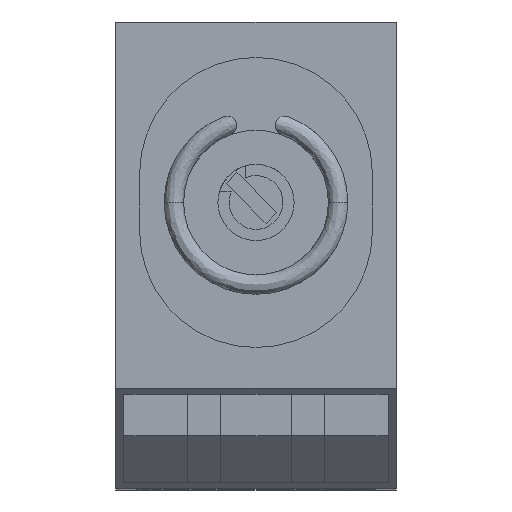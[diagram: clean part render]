
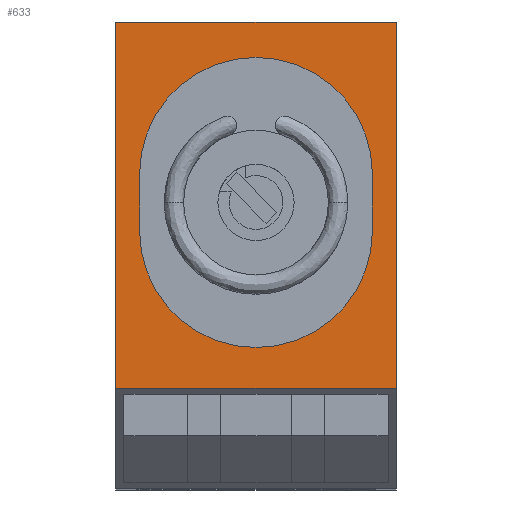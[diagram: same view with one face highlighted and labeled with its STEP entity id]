
A CAD part, top view. The second image highlights one B-rep face of the part: STEP entity #633.
In plain terms, the highlighted planar face has unit normal (0, 0, 1).
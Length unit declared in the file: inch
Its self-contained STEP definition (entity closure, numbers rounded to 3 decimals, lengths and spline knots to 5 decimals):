
#224 = EDGE_CURVE ( 'NONE', #3449, #1127, #2433, .T. ) ;
#245 = EDGE_CURVE ( 'NONE', #1127, #310, #2536, .T. ) ;
#310 = VERTEX_POINT ( 'NONE', #3046 ) ;
#455 = VERTEX_POINT ( 'NONE', #1461 ) ;
#467 = EDGE_CURVE ( 'NONE', #455, #538, #1569, .T. ) ;
#538 = VERTEX_POINT ( 'NONE', #2014 ) ;
#613 = EDGE_CURVE ( 'NONE', #310, #703, #2664, .T. ) ;
#614 = EDGE_LOOP ( 'NONE', ( #4871, #4831, #4593, #3759 ) ) ;
#633 = ADVANCED_FACE ( 'NONE', ( #2791, #2792 ), #2793, .T. ) ;
#665 = EDGE_CURVE ( 'NONE', #538, #766, #3081, .T. ) ;
#703 = VERTEX_POINT ( 'NONE', #3227 ) ;
#766 = VERTEX_POINT ( 'NONE', #1019 ) ;
#1019 = CARTESIAN_POINT ( 'NONE',  ( 4.7267, 3.43174, 0.3059 ) ) ;
#1127 = VERTEX_POINT ( 'NONE', #2475 ) ;
#1208 = CARTESIAN_POINT ( 'NONE',  ( 4.2922, 3.69774, 0.3059 ) ) ;
#1433 = ORIENTED_EDGE ( 'NONE', *, *, #613, .T. ) ;
#1461 = CARTESIAN_POINT ( 'NONE',  ( 4.2517, 4.05174, 0.3059 ) ) ;
#1569 = LINE ( 'NONE', #1570, #1571 ) ;
#1570 = CARTESIAN_POINT ( 'NONE',  ( 4.2517, 3.43174, 0.3059 ) ) ;
#1571 = VECTOR ( 'NONE', #1572, 39.37008 ) ;
#1572 = DIRECTION ( 'NONE',  ( 0., -1., 0. ) ) ;
#1654 = LINE ( 'NONE', #1655, #1656 ) ;
#1655 = CARTESIAN_POINT ( 'NONE',  ( 4.7267, 3.66808, 0.3059 ) ) ;
#1656 = VECTOR ( 'NONE', #1657, 39.37008 ) ;
#1657 = DIRECTION ( 'NONE',  ( 0., 1., 0. ) ) ;
#1923 = ORIENTED_EDGE ( 'NONE', *, *, #245, .T. ) ;
#2014 = CARTESIAN_POINT ( 'NONE',  ( 4.2517, 3.43174, 0.3059 ) ) ;
#2015 = CARTESIAN_POINT ( 'NONE',  ( 4.7267, 4.05174, 0.3059 ) ) ;
#2163 = LINE ( 'NONE', #2164, #2165 ) ;
#2164 = CARTESIAN_POINT ( 'NONE',  ( 4.2517, 4.05174, 0.3059 ) ) ;
#2165 = VECTOR ( 'NONE', #2166, 39.37008 ) ;
#2166 = DIRECTION ( 'NONE',  ( -1., 0., 0. ) ) ;
#2409 = ORIENTED_EDGE ( 'NONE', *, *, #224, .T. ) ;
#2433 = LINE ( 'NONE', #2434, #2435 ) ;
#2434 = CARTESIAN_POINT ( 'NONE',  ( 4.2922, 3.43174, 0.3059 ) ) ;
#2435 = VECTOR ( 'NONE', #2436, 39.37008 ) ;
#2436 = DIRECTION ( 'NONE',  ( 0., 1., 0. ) ) ;
#2475 = CARTESIAN_POINT ( 'NONE',  ( 4.2922, 3.79474, 0.3059 ) ) ;
#2536 = CIRCLE ( 'NONE', #2537, 0.197 ) ;
#2537 = AXIS2_PLACEMENT_3D ( 'NONE', #2538, #2539, #2540 ) ;
#2538 = CARTESIAN_POINT ( 'NONE',  ( 4.4892, 3.79474, 0.3059 ) ) ;
#2539 = DIRECTION ( 'NONE',  ( 0., 0., -1. ) ) ;
#2540 = DIRECTION ( 'NONE',  ( -1., 0., 0. ) ) ;
#2612 = EDGE_CURVE ( 'NONE', #703, #3449, #3331, .T. ) ;
#2664 = LINE ( 'NONE', #2667, #2668 ) ;
#2667 = CARTESIAN_POINT ( 'NONE',  ( 4.6862, 3.43174, 0.3059 ) ) ;
#2668 = VECTOR ( 'NONE', #2669, 39.37008 ) ;
#2669 = DIRECTION ( 'NONE',  ( 0., -1., 0. ) ) ;
#2791 = FACE_OUTER_BOUND ( 'NONE', #614, .T. ) ;
#2792 = FACE_BOUND ( 'NONE', #3536, .T. ) ;
#2793 = PLANE ( 'NONE',  #2794 ) ;
#2794 = AXIS2_PLACEMENT_3D ( 'NONE', #2795, #2796, #2797 ) ;
#2795 = CARTESIAN_POINT ( 'NONE',  ( 4.2517, 3.43174, 0.3059 ) ) ;
#2796 = DIRECTION ( 'NONE',  ( 0., 0., 1. ) ) ;
#2797 = DIRECTION ( 'NONE',  ( 0., -1., 0. ) ) ;
#3046 = CARTESIAN_POINT ( 'NONE',  ( 4.6862, 3.79474, 0.3059 ) ) ;
#3053 = ORIENTED_EDGE ( 'NONE', *, *, #2612, .T. ) ;
#3081 = LINE ( 'NONE', #3082, #3083 ) ;
#3082 = CARTESIAN_POINT ( 'NONE',  ( 4.2517, 3.43174, 0.3059 ) ) ;
#3083 = VECTOR ( 'NONE', #3084, 39.37008 ) ;
#3084 = DIRECTION ( 'NONE',  ( 1., 0., 0. ) ) ;
#3227 = CARTESIAN_POINT ( 'NONE',  ( 4.6862, 3.69774, 0.3059 ) ) ;
#3331 = CIRCLE ( 'NONE', #3332, 0.197 ) ;
#3332 = AXIS2_PLACEMENT_3D ( 'NONE', #3333, #3334, #3335 ) ;
#3333 = CARTESIAN_POINT ( 'NONE',  ( 4.4892, 3.69774, 0.3059 ) ) ;
#3334 = DIRECTION ( 'NONE',  ( 0., 0., -1. ) ) ;
#3335 = DIRECTION ( 'NONE',  ( -1., 0., 0. ) ) ;
#3449 = VERTEX_POINT ( 'NONE', #1208 ) ;
#3536 = EDGE_LOOP ( 'NONE', ( #3053, #2409, #1923, #1433 ) ) ;
#3759 = ORIENTED_EDGE ( 'NONE', *, *, #4841, .T. ) ;
#4247 = EDGE_CURVE ( 'NONE', #766, #4821, #1654, .T. ) ;
#4593 = ORIENTED_EDGE ( 'NONE', *, *, #4247, .T. ) ;
#4821 = VERTEX_POINT ( 'NONE', #2015 ) ;
#4831 = ORIENTED_EDGE ( 'NONE', *, *, #665, .T. ) ;
#4841 = EDGE_CURVE ( 'NONE', #4821, #455, #2163, .T. ) ;
#4871 = ORIENTED_EDGE ( 'NONE', *, *, #467, .T. ) ;
